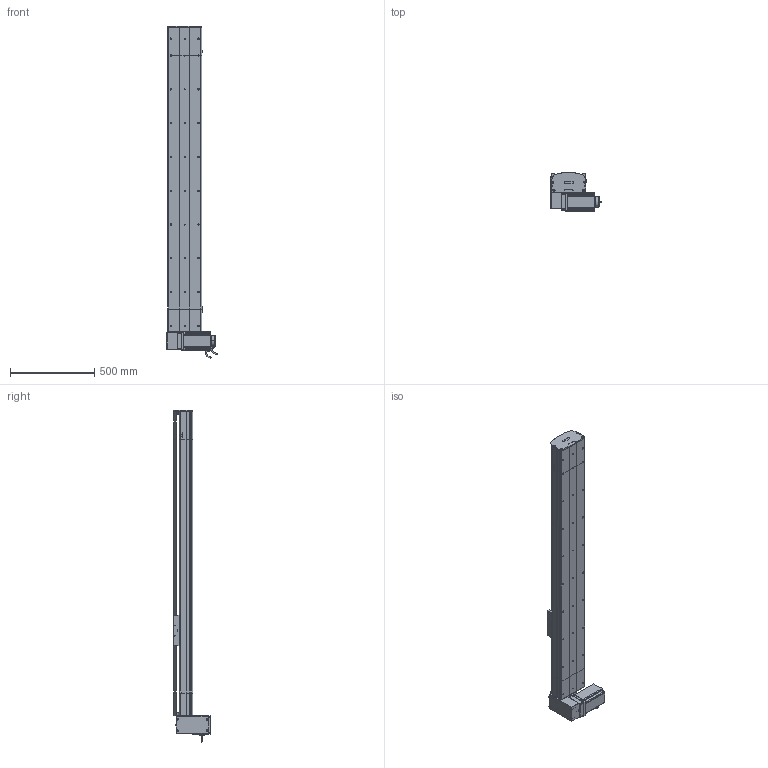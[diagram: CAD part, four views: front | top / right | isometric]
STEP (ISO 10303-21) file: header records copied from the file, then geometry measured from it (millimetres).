
FILE_DESCRIPTION (( 'STEP AP214' ), '1' );
FILE_NAME ('D20 TBH RU S1500.STEP', '2010-07-01T07:23:01', ( 'Conseil Régional Haute-Normandie' ), ( 'Conseil Régional Haute-Normandie' ), 'SwSTEP 2.0', 'SolidWorks 2010', '' );
FILE_SCHEMA (( 'AUTOMOTIVE_DESIGN' ));
Length unit declared in the file: millimetre
Products named in the file (40): couvercle tail D20_Default; rail head D20; corpl head D20_Default; head RU_Default; couvercle head D20_Default; rail + couroie  D20 S1500; Couroie tail D20_Default; plaque de  bout tail D20_Default; tete d''axe poulie D20B; poulie tail D20_Default; corpl tail D20 +100_Default; tail D20+100_Default; vis M8 L12_Default; codeur 110BLDC170A-630x; corps 110BLDC170A-630x; avant 110BLDC170A-630x; clavette; Conecteur_Default; Conecteur2_Default; Moteur motionking 110BLDC170A-640x; vis M5 L70_Default; Plaque racord D20LH_Default; Renvoi RU D20_Default; vis M5 L5_Default; couroie_Default; cache D20_Default; cache arbre D20_Default; poulie head D20_Default; plaque de  bout head D20B RU_Default; vis M5 L12_Default; rail tail D20; vis M5 L8 90°_Default; vis M5 L25_Default; guide D20B; Chariot D20B; chariot D20B_Default; D20 TBH RU S1500; couvercle D20 S1500_Default; corp D20 S1500_Default; Course B L1500_Default
Assembly tree (71 placements, depth 4):
  D20 TBH RU S1500
    Course B L1500_Default
      corp D20 S1500_Default
      rail + couroie  D20 S1500
      couvercle D20 S1500_Default
    head RU_Default
      vis M8 L12_Default  x4
      couvercle head D20_Default
      vis M5 L12_Default  x10
      vis M5 L70_Default  x4
      Plaque racord D20LH_Default
      poulie head D20_Default
      corpl head D20_Default
      Renvoi RU D20_Default
      vis M5 L25_Default  x2
      couroie_Default
      cache D20_Default  x2
      cache arbre D20_Default
      vis M5 L5_Default  x4
      plaque de  bout head D20B RU_Default
      rail head D20
      Moteur motionking 110BLDC170A-640x
        Conecteur_Default
        corps 110BLDC170A-630x
        clavette
        codeur 110BLDC170A-630x
        avant 110BLDC170A-630x
        Conecteur2_Default
    chariot D20B_Default
      vis M5 L12_Default  x4
      guide D20B  x2
      Chariot D20B
    tail D20+100_Default
      poulie tail D20_Default
      vis M5 L12_Default  x4
      tete d''axe poulie D20B
      vis M5 L8 90°_Default  x2
      plaque de  bout tail D20_Default
      Couroie tail D20_Default
      vis M5 L25_Default  x2
      corpl tail D20 +100_Default
      rail tail D20
      couvercle tail D20_Default
Bounding box: 304.2 x 223.2 x 1965 mm (x, y, z)
Volume: 16837173.6 mm3; surface area: 3986259.9 mm2
Topology: 95 solids, 95 shells, 2748 faces, 6936 edges, 4475 vertices
Faces by surface type: plane 1627, cylinder 797, bspline 136, cone 99, torus 89
Entity records: 86409 total; most frequent: CARTESIAN_POINT 27555, ORIENTED_EDGE 10528, DIRECTION 9957, EDGE_CURVE 5264, VERTEX_POINT 3461, LINE 3439, VECTOR 3439, AXIS2_PLACEMENT_3D 3259
